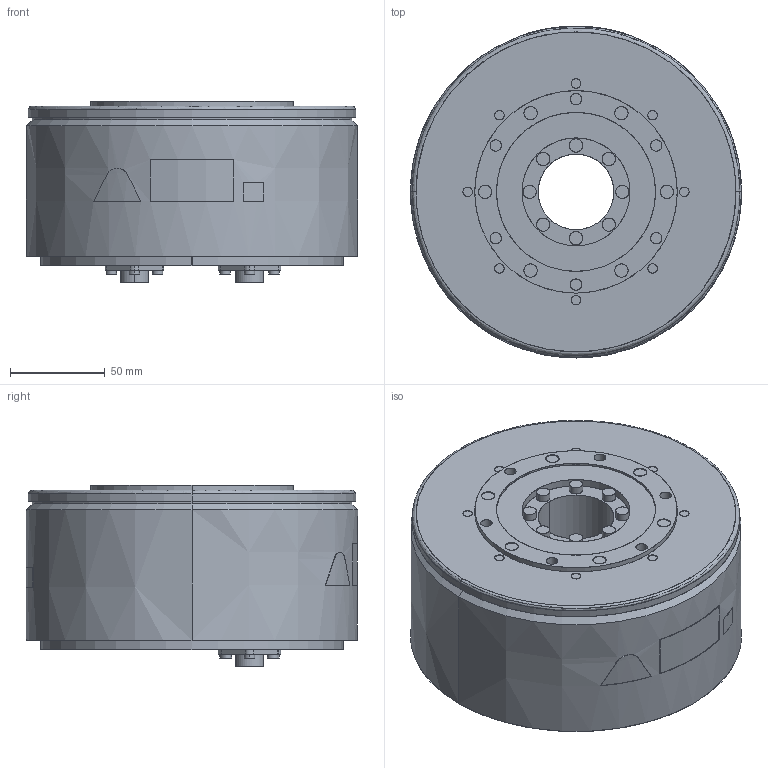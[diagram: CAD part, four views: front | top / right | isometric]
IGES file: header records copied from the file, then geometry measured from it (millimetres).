
Start section: SolidWorks IGES file using analytic representation for surfaces
Global section: file name: D:\YASKAWA\sgm7f_17c_a1_.IGS; native system: SolidWorks 2006 by SolidWorks Corporation; preprocessor: SolidWorks 2006 by SolidWorks Corporation; author: yamanouchi; date: 160724.152705; units: millimetre
Bounding box: 175 x 175.4 x 96.1 mm (x, y, z)
Surface area: 135945 mm2 (no closed solid volume)
Topology: 0 solids, 0 shells, 326 faces, 6663 edges, 6663 vertices
Faces by surface type: revolution 186, bspline 140
